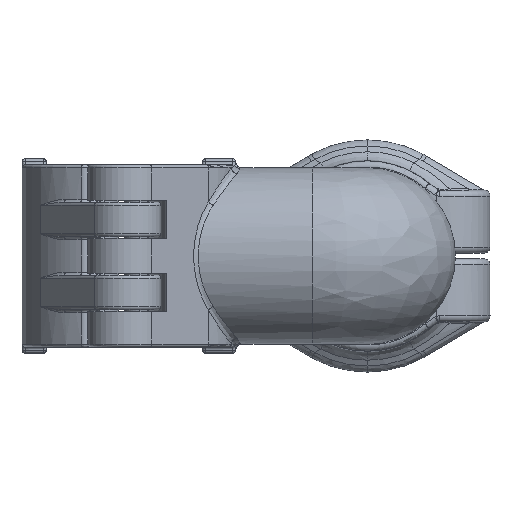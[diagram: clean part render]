
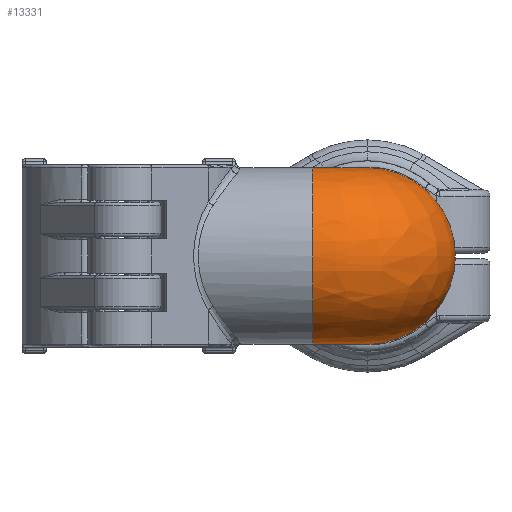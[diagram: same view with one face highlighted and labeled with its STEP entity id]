
A CAD part, left-side view. The second image highlights one B-rep face of the part: STEP entity #13331.
In plain terms, the highlighted free-form (B-spline) face has degree [3, 3] with [4, 7] control points.
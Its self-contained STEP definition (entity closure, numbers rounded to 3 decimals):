
#1127=CARTESIAN_POINT('',(6.791,-31.46,13.054));
#4796=CARTESIAN_POINT('',(9.134,-33.803,
-13.054));
#4824=CARTESIAN_POINT('',(0.,-31.461,
0.));
#4825=DIRECTION('',(0.,1.,0.));
#4826=DIRECTION('',(0.462,0.,-0.887));
#4827=AXIS2_PLACEMENT_3D('',#4824,#4825,#4826);
#4832=CARTESIAN_POINT('',(0.,-31.461,
0.));
#4833=DIRECTION('',(0.,1.,0.));
#4834=DIRECTION('',(0.,0.,-1.));
#4835=AXIS2_PLACEMENT_3D('',#4832,#4833,#4834);
#4840=CARTESIAN_POINT('',(0.,-31.461,
0.));
#4841=DIRECTION('',(0.,1.,0.));
#4842=DIRECTION('',(0.,0.,1.));
#4843=AXIS2_PLACEMENT_3D('',#4840,#4841,#4842);
#4848=CARTESIAN_POINT('',(6.791,-31.46,13.054));
#4849=CARTESIAN_POINT('',(6.88,-31.738,13.008));
#4850=CARTESIAN_POINT('',(7.111,-32.255,12.935));
#4851=CARTESIAN_POINT('',(7.647,-32.949,12.893));
#4852=CARTESIAN_POINT('',(8.341,-33.483,12.935));
#4853=CARTESIAN_POINT('',(8.857,-33.714,13.008));
#4854=CARTESIAN_POINT('',(9.134,-33.803,13.054));
#4859=CARTESIAN_POINT('',(9.133,-40.594,
0.));
#4860=DIRECTION('',(1.,0.,0.));
#4861=DIRECTION('',(0.,0.462,0.887));
#4862=AXIS2_PLACEMENT_3D('',#4859,#4860,#4861);
#4867=CARTESIAN_POINT('',(9.133,-40.594,
0.));
#4868=DIRECTION('',(1.,0.,0.));
#4869=DIRECTION('',(0.,0.,1.));
#4870=AXIS2_PLACEMENT_3D('',#4867,#4868,#4869);
#4875=CARTESIAN_POINT('',(9.133,-40.594,
0.));
#4876=DIRECTION('',(1.,0.,0.));
#4877=DIRECTION('',(0.,0.,-1.));
#4878=AXIS2_PLACEMENT_3D('',#4875,#4876,#4877);
#4883=CARTESIAN_POINT('',(9.134,-33.803,
-13.054));
#4884=CARTESIAN_POINT('',(8.855,-33.713,
-13.008));
#4885=CARTESIAN_POINT('',(8.337,-33.481,
-12.935));
#4886=CARTESIAN_POINT('',(7.644,-32.946,
-12.893));
#4887=CARTESIAN_POINT('',(7.112,-32.255,
-12.935));
#4888=CARTESIAN_POINT('',(6.88,-31.738,
-13.008));
#4889=CARTESIAN_POINT('',(6.791,-31.46,
-13.054));
#5306=CARTESIAN_POINT('',(0.,-31.461,
-14.715));
#5307=VERTEX_POINT('',#5306);
#5308=CARTESIAN_POINT('',(6.791,-31.46,
-13.054));
#5309=VERTEX_POINT('',#5308);
#5310=VERTEX_POINT('',#1127);
#5311=CARTESIAN_POINT('',(0.,-31.461,
14.715));
#5312=VERTEX_POINT('',#5311);
#5610=CARTESIAN_POINT('',(9.134,-40.594,
-14.715));
#5611=VERTEX_POINT('',#5610);
#5612=CARTESIAN_POINT('',(9.133,-40.594,14.715));
#5613=VERTEX_POINT('',#5612);
#5614=CARTESIAN_POINT('',(9.134,-33.803,13.054));
#5615=VERTEX_POINT('',#5614);
#5616=VERTEX_POINT('',#4796);
#13289=CARTESIAN_POINT('',(9.197,-32.481,
12.278));
#13290=CARTESIAN_POINT('',(9.885,-43.564,
19.614));
#13291=CARTESIAN_POINT('',(10.611,-55.264,
13.31));
#13292=CARTESIAN_POINT('',(10.611,-55.264,
0.));
#13293=CARTESIAN_POINT('',(10.611,-55.264,
-13.31));
#13294=CARTESIAN_POINT('',(9.885,-43.564,
-19.614));
#13295=CARTESIAN_POINT('',(9.197,-32.481,
-12.278));
#13296=CARTESIAN_POINT('',(8.539,-32.522,
12.278));
#13297=CARTESIAN_POINT('',(2.077,-44.049,
19.614));
#13298=CARTESIAN_POINT('',(-4.744,-56.216,
13.31));
#13299=CARTESIAN_POINT('',(-4.744,-56.216,
0.));
#13300=CARTESIAN_POINT('',(-4.744,-56.216,
-13.31));
#13301=CARTESIAN_POINT('',(2.077,-44.049,
-19.614));
#13302=CARTESIAN_POINT('',(8.539,-32.522,
-12.278));
#13303=CARTESIAN_POINT('',(8.073,-32.055,
12.278));
#13304=CARTESIAN_POINT('',(-3.455,-38.517,
19.614));
#13305=CARTESIAN_POINT('',(-15.622,-45.338,
13.31));
#13306=CARTESIAN_POINT('',(-15.622,-45.338,
0.));
#13307=CARTESIAN_POINT('',(-15.622,-45.338,
-13.31));
#13308=CARTESIAN_POINT('',(-3.455,-38.517,
-19.614));
#13309=CARTESIAN_POINT('',(8.072,-32.055,
-12.278));
#13310=CARTESIAN_POINT('',(8.113,-31.397,
12.278));
#13311=CARTESIAN_POINT('',(-2.97,-30.709,
19.614));
#13312=CARTESIAN_POINT('',(-14.67,-29.984,
13.31));
#13313=CARTESIAN_POINT('',(-14.67,-29.984,
0.));
#13314=CARTESIAN_POINT('',(-14.67,-29.984,
-13.31));
#13315=CARTESIAN_POINT('',(-2.97,-30.709,
-19.614));
#13316=CARTESIAN_POINT('',(8.113,-31.397,
-12.278));
#13317=(BOUNDED_SURFACE()B_SPLINE_SURFACE(3,3,((#13289,#13290,#13291,#13292,
#13293,#13294,#13295),(#13296,#13297,#13298,#13299,#13300,#13301,#13302),
(#13303,#13304,#13305,#13306,#13307,#13308,#13309),(#13310,#13311,#13312,#13313,
#13314,#13315,#13316)),.UNSPECIFIED.,.F.,.F.,.F.)B_SPLINE_SURFACE_WITH_KNOTS((4,
4),(4,3,4),(0.,1.),(0.,1.,2.),.UNSPECIFIED.)GEOMETRIC_REPRESENTATION_ITEM()RATIONAL_B_SPLINE_SURFACE(((1.633,1.06,
1.06,1.633,1.06,1.06,
1.633),(1.265,0.821,0.821,
1.265,0.821,0.821,1.265),(
1.265,0.821,0.821,1.265,
0.821,0.821,1.265),(1.633,
1.06,1.06,1.633,1.06,
1.06,1.633)))REPRESENTATION_ITEM('')SURFACE());
#13318=ORIENTED_EDGE('',*,*,#8924,.T.);
#13320=ORIENTED_EDGE('',*,*,#13319,.T.);
#13321=ORIENTED_EDGE('',*,*,#8928,.T.);
#13323=ORIENTED_EDGE('',*,*,#13322,.T.);
#13324=ORIENTED_EDGE('',*,*,#13267,.T.);
#13325=ORIENTED_EDGE('',*,*,#13252,.T.);
#13326=ORIENTED_EDGE('',*,*,#13271,.T.);
#13328=ORIENTED_EDGE('',*,*,#13327,.T.);
#13329=EDGE_LOOP('',(#13318,#13320,#13321,#13323,#13324,#13325,#13326,#13328));
#13330=FACE_OUTER_BOUND('',#13329,.F.);
#4828=CIRCLE('',#4827,14.715);
#4836=CIRCLE('',#4835,14.715);
#4844=CIRCLE('',#4843,14.715);
#4855=B_SPLINE_CURVE_WITH_KNOTS('',3,(#4848,#4849,#4850,#4851,#4852,#4853,
#4854),.UNSPECIFIED.,.F.,.F.,(4,1,1,1,4),(0.,0.25,0.5,0.75,1.),
.UNSPECIFIED.);
#4863=CIRCLE('',#4862,14.715);
#4871=CIRCLE('',#4870,14.715);
#4879=CIRCLE('',#4878,14.715);
#4890=B_SPLINE_CURVE_WITH_KNOTS('',3,(#4883,#4884,#4885,#4886,#4887,#4888,
#4889),.UNSPECIFIED.,.F.,.F.,(4,1,1,1,4),(0.,0.25,0.5,0.75,1.),
.UNSPECIFIED.);
#8924=EDGE_CURVE('',#5309,#5307,#4828,.T.);
#8928=EDGE_CURVE('',#5312,#5310,#4844,.T.);
#13252=EDGE_CURVE('',#5613,#5611,#4871,.T.);
#13267=EDGE_CURVE('',#5615,#5613,#4863,.T.);
#13271=EDGE_CURVE('',#5611,#5616,#4879,.T.);
#13319=EDGE_CURVE('',#5307,#5312,#4836,.T.);
#13322=EDGE_CURVE('',#5310,#5615,#4855,.T.);
#13327=EDGE_CURVE('',#5616,#5309,#4890,.T.);
#13331=ADVANCED_FACE('',(#13330),#13317,.T.);
